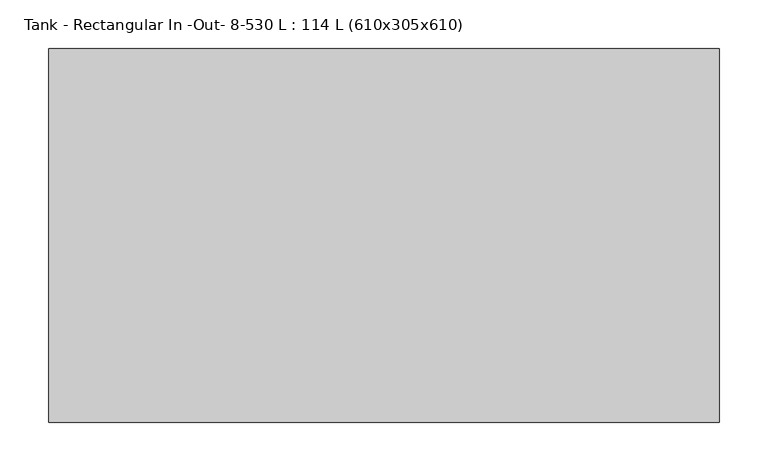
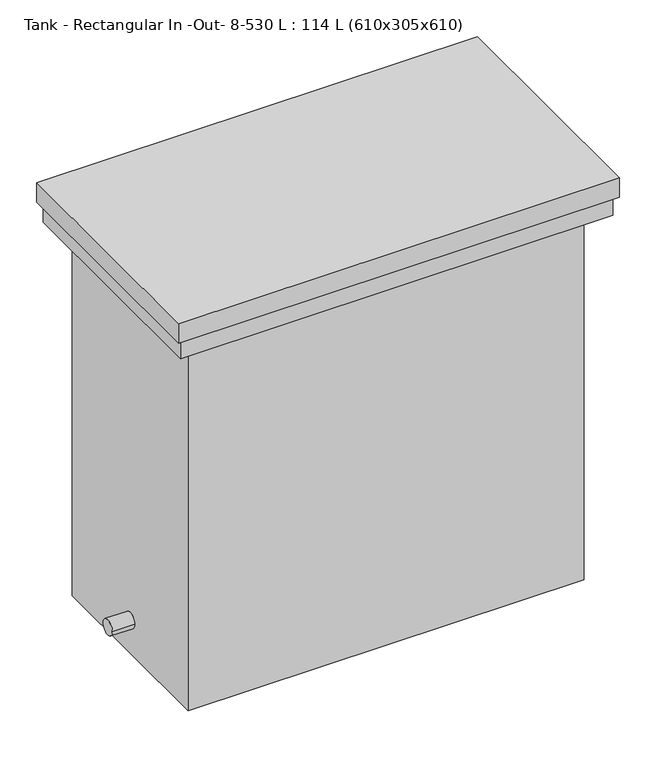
"""IFC4 building model written with IfcOpenShell, lengths in millimetres: proxy geometry, Tank - Rectangular In -Out- 8-530 L : 114 L (610x305x610)."""

from ifc_helpers import new_model, si_unit, point, frame, frame_2d, origin, place, context, project, spatial, circle_curve, trimmed, segment, composite_curve, outline, extrude, source, transform, mapped, element, save
from ifc_brep_helpers import plane_surface, cylinder_surface, advanced_brep


def tank_rectangular_in_out_8_530_l_114_l_610x305x610_4af9d899(model_context):
    return source(origin(), model_context, "Body", "SolidModel", [
        extrude(outline(composite_curve([segment(trimmed(circle_curve(frame_2d((0.0, 590.7324347)), 12.5), [point((-12.5, 590.7324347))], [point((12.5, 590.7324347))], False, "CARTESIAN"), True, "CONTINUOUS"), segment(trimmed(circle_curve(frame_2d((0.0, 590.7324347)), 12.5), [point((12.5, 590.7324347))], [point((-12.5, 590.7324347))], False, "CARTESIAN"), True, "CONTINUOUS")], self_intersect=False)), frame((-38.05, 0.0, 0.0), z_axis=(1.0, 0.0, 0.0), x_axis=(0.0, 1.0, 0.0)), (0.0, 0.0, 1.0), 250.0),
        advanced_brep(
        [(344.55, 192.15, 673.2), (-344.55, 192.15, 673.2), (-344.55, -192.15, 673.2), (344.55, -192.15, 673.2), (344.55, 192.15, 641.4), (344.55, -192.15, 641.4), (-344.55, -192.15, 641.4), (-344.55, 192.15, 641.4), (338.2, 185.8, 641.4), (-338.2, 185.8, 641.4), (-338.2, -185.8, 641.4), (338.2, -185.8, 641.4), (338.2, 185.8, 609.6), (338.2, -185.8, 609.6), (-338.2, -185.8, 609.6), (-338.2, 185.8, 609.6), (309.65, 157.25, 609.6), (-309.65, 157.25, 609.6), (-309.65, -157.25, 609.6), (309.65, -157.25, 609.6), (309.65, 157.25, 0.0), (309.65, -157.25, 0.0), (-309.65, -157.25, 0.0), (-309.65, 157.25, 0.0), (-309.65, -12.5, 55.1), (-309.65, 12.5, 55.1), (-344.55, -12.5, 55.1), (-344.55, 12.5, 55.1)],
        [
            (0, 1),
            (1, 2),
            (2, 3),
            (3, 0),
            (4, 5),
            (5, 6),
            (6, 7),
            (7, 4),
            (8, 9),
            (9, 10),
            (10, 11),
            (11, 8),
            (0, 4),
            (7, 1),
            (6, 2),
            (5, 3),
            (12, 13),
            (13, 14),
            (14, 15),
            (15, 12),
            (16, 17),
            (17, 18),
            (18, 19),
            (19, 16),
            (15, 9),
            (8, 12),
            (14, 10),
            (13, 11),
            (20, 21),
            (21, 22),
            (22, 23),
            (23, 20),
            (23, 17),
            (16, 20),
            (22, 18),
            (24, 25, circle_curve(frame((-309.65, 0.0, 55.1), z_axis=(1.0, 0.0, 0.0), x_axis=(0.0, 1.0, 0.0)), 12.5)),
            (25, 24, circle_curve(frame((-309.65, 0.0, 55.1), z_axis=(1.0, 0.0, 0.0), x_axis=(0.0, 1.0, 0.0)), 12.5)),
            (21, 19),
            (26, 27, circle_curve(frame((-344.55, 0.0, 55.1), z_axis=(-1.0, 0.0, 0.0), x_axis=(0.0, 1.0, 0.0)), 12.5)),
            (27, 26, circle_curve(frame((-344.55, 0.0, 55.1), z_axis=(-1.0, 0.0, 0.0), x_axis=(0.0, 1.0, 0.0)), 12.5)),
            (27, 25),
            (24, 26),
        ],
        [
            plane_surface(frame((-344.55, 192.15, 673.2), z_axis=(0.0, 0.0, 1.0), x_axis=(-1.0, 0.0, 0.0))),
            plane_surface(frame((-344.55, 192.15, 641.4), z_axis=(0.0, 0.0, -1.0), x_axis=(1.0, 0.0, 0.0))),
            plane_surface(frame((344.55, 192.15, 673.2), z_axis=(0.0, 1.0, 0.0), x_axis=(0.0, 0.0, -1.0))),
            plane_surface(frame((-344.55, 192.15, 673.2), z_axis=(-1.0, 0.0, 0.0), x_axis=(0.0, 0.0, -1.0))),
            plane_surface(frame((-344.55, -192.15, 673.2), z_axis=(0.0, -1.0, 0.0), x_axis=(0.0, 0.0, -1.0))),
            plane_surface(frame((344.55, -192.15, 673.2), z_axis=(1.0, 0.0, 0.0), x_axis=(0.0, 0.0, -1.0))),
            plane_surface(frame((-338.2, 185.8, 609.6), z_axis=(0.0, 0.0, -1.0), x_axis=(1.0, 0.0, 0.0))),
            plane_surface(frame((338.2, 185.8, 641.4), z_axis=(0.0, 1.0, 0.0), x_axis=(0.0, 0.0, -1.0))),
            plane_surface(frame((-338.2, 185.8, 641.4), z_axis=(-1.0, 0.0, 0.0), x_axis=(0.0, 0.0, -1.0))),
            plane_surface(frame((-338.2, -185.8, 641.4), z_axis=(0.0, -1.0, 0.0), x_axis=(0.0, 0.0, -1.0))),
            plane_surface(frame((338.2, -185.8, 641.4), z_axis=(1.0, 0.0, 0.0), x_axis=(0.0, 0.0, -1.0))),
            plane_surface(frame((-309.65, 157.25, 0.0), z_axis=(0.0, 0.0, -1.0), x_axis=(1.0, 0.0, 0.0))),
            plane_surface(frame((309.65, 157.25, 609.6), z_axis=(0.0, 1.0, 0.0), x_axis=(0.0, 0.0, -1.0))),
            plane_surface(frame((-309.65, 157.25, 609.6), z_axis=(-1.0, 0.0, 0.0), x_axis=(0.0, 0.0, -1.0))),
            plane_surface(frame((-309.65, -157.25, 609.6), z_axis=(0.0, -1.0, 0.0), x_axis=(0.0, 0.0, -1.0))),
            plane_surface(frame((309.65, -157.25, 609.6), z_axis=(1.0, 0.0, 0.0), x_axis=(0.0, 0.0, -1.0))),
            plane_surface(frame((-344.55, 12.5, 55.1), z_axis=(-1.0, 0.0, 0.0), x_axis=(0.0, 0.0, -1.0))),
            cylinder_surface(frame((-344.55, 0.0, 55.1), z_axis=(1.0, 0.0, 0.0), x_axis=(0.0, 1.0, 0.0)), 12.5),
        ],
        [
            (0, [[1, 2, 3, 4]]),
            (1, [[5, 6, 7, 8], [9, 10, 11, 12]]),
            (2, [[-1, 13, -8, 14]]),
            (3, [[-2, -14, -7, 15]]),
            (4, [[-3, -15, -6, 16]]),
            (5, [[-4, -16, -5, -13]]),
            (6, [[17, 18, 19, 20], [21, 22, 23, 24]]),
            (7, [[-20, 25, -9, 26]]),
            (8, [[-19, 27, -10, -25]]),
            (9, [[-18, 28, -11, -27]]),
            (10, [[-17, -26, -12, -28]]),
            (11, [[29, 30, 31, 32]]),
            (12, [[-32, 33, -21, 34]]),
            (13, [[-31, 35, -22, -33], [36, 37]]),
            (14, [[-30, 38, -23, -35]]),
            (15, [[-29, -34, -24, -38]]),
            (16, [[39, 40]]),
            (17, [[-40, 41, -36, 42]]),
            (17, [[-39, -42, -37, -41]]),
        ],
    ),
    ])


if __name__ == "__main__":
    model = new_model("IFC4")
    model_context = context("Model", 3, world=origin())
    ifc_project = project(units=[si_unit("LENGTHUNIT", "METRE", prefix="MILLI")], contexts=[model_context])
    site = spatial("IfcSite", under=ifc_project)
    building = spatial("IfcBuilding", under=site)
    placement = place(None, origin())
    tank_rectangular_in_out_8_530_l_114_l_610x305x610_shape = tank_rectangular_in_out_8_530_l_114_l_610x305x610_4af9d899(model_context)
    element("IfcBuildingElementProxy", 1, Name="Tank - Rectangular In -Out- 8-530 L : 114 L (610x305x610)", ObjectType="Tank - Rectangular In -Out- 8-530 L : 114 L (610x305x610)", at=placement, inside=building, context=model_context, shape_type="MappedRepresentation", body=[
        mapped(tank_rectangular_in_out_8_530_l_114_l_610x305x610_shape, transform((0.0, 0.0, 0.0), x_axis=(1.0, 0.0, 0.0), y_axis=(0.0, 1.0, 0.0), z_axis=(0.0, 0.0, 1.0))),
    ])
    save(model, "model.ifc")
